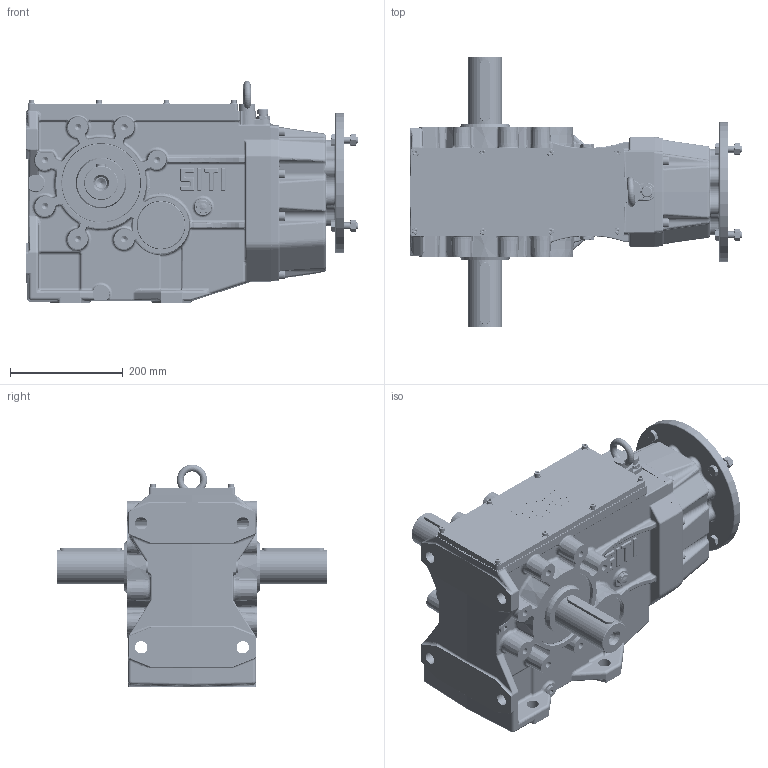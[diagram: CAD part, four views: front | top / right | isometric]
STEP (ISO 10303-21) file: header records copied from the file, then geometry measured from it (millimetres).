
FILE_DESCRIPTION((''),'2;1');
FILE_NAME('O:\Figurini\Figurini BH\3D\125\MBH 125 MD PAM 100-112 B5.stp','2013-05-13T11:54:43',('d.iannaccio'),(''),'Autodesk Inventor 2012','Autodesk Inventor 2012','');
FILE_SCHEMA(('AUTOMOTIVE_DESIGN { 1 0 10303 214 1 1 1 1 }'));
Length unit declared in the file: millimetre
Products named in the file (1): MBH_125 MD PAM 100-112 B5
Bounding box: 589.01 x 480 x 395 mm (x, y, z)
Volume: 10589195.5 mm3; surface area: 1898849.8 mm2
Topology: 69 solids, 71 shells, 4437 faces, 10440 edges, 6107 vertices
Faces by surface type: cylinder 1279, plane 1208, bspline 1001, torus 445, cone 294, sphere 210
Full cylindrical faces by diameter (mm): 4.917 x8, 6 x16, 6.4 x8, 6.647 x8, 7 x8, 8 x16, 8.376 x8, 9 x8, 10 x20, 10.106 x3, 11 x10, 11.835 x14, 12 x25, 12.5 x8, 14 x4, 14.95 x8, 16 x9, 17.835 x2, 18.95 x1, 19 x1, 19.07 x1, 19.5 x1, 20 x1, 21 x2, 22 x8, 25 x1, 30 x2, 36 x1, 37.5 x1, 39.586 x1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
Entity records: 155949 total; most frequent: CARTESIAN_POINT 58297, ORIENTED_EDGE 18928, DIRECTION 18821, EDGE_CURVE 9464, AXIS2_PLACEMENT_3D 7852, VERTEX_POINT 5879, EDGE_LOOP 5250, STYLED_ITEM 4506
